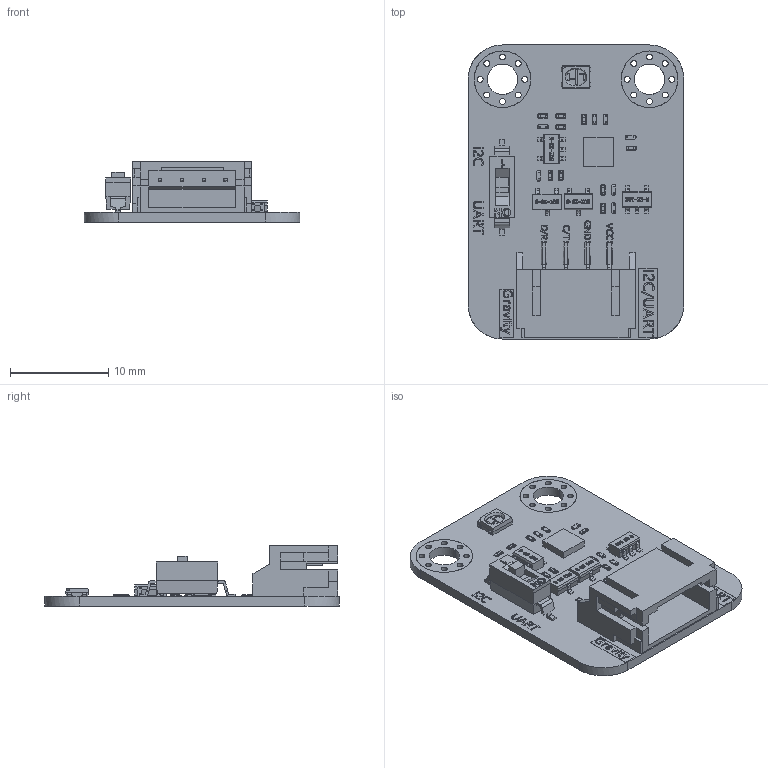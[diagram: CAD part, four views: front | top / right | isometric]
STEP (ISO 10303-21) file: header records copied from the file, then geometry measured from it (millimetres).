
FILE_DESCRIPTION(/* description */ (''),/* implementation_level */ '2;1');
FILE_NAME(/* name */ 'SEN0636',/* time_stamp */ '2024-11-11T12:14:50+08:00',/* author */ (''),/* organization */ (''),/* preprocessor_version */ 'ST-DEVELOPER v16.5',/* originating_system */ '',/* authorisation */ '');
FILE_SCHEMA (('AUTOMOTIVE_DESIGN'));
Products named in the file (1): Document
Bounding box: 22 x 30 x 6.19 mm (x, y, z)
Volume: 916.7 mm3; surface area: 2546.2 mm2
Topology: 153 solids, 162 shells, 3004 faces, 7489 edges, 4838 vertices
Faces by surface type: plane 1578, bspline 1426
Entity records: 122580 total; most frequent: CARTESIAN_POINT 72446, ORIENTED_EDGE 14868, EDGE_CURVE 7461, B_SPLINE_CURVE_WITH_KNOTS 6244, VERTEX_POINT 4838, EDGE_LOOP 3200, ADVANCED_FACE 3004, FACE_OUTER_BOUND 3004
